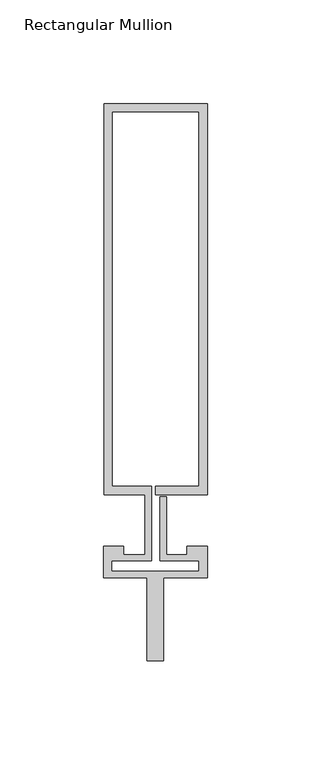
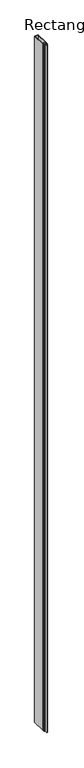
"""IFC4 building model written with IfcOpenShell, lengths in millimetres: member geometry, Rectangular Mullion : Reynaers_CW-50_Mullion-Transom_Vertical_188.5mm_Facecap-06B."""

from ifc_helpers import new_model, si_unit, frame, origin, place, context, project, spatial, polyline, outline, extrude, source, transform, mapped, element, save


def rectangular_mullion_8f96b9b0(model_context):
    return source(origin(), model_context, "Body", "SweptSolid", [
        extrude(outline(polyline([(-24.8004059, 201.0), (25.1995941, 201.0), (25.1995941, 12.5), (0.0, 12.5), (0.0, 16.5), (21.1995941, 16.5), (21.1995941, 197.0), (-20.8004059, 197.0), (-20.8004059, 16.5), (-1.9004059, 16.5), (-1.9004059, -19.5), (-20.994845, -19.5), (-20.994845, -24.4191338), (21.1995941, -24.4191338), (21.1995941, -19.5), (2.2995941, -19.5), (2.2995941, 11.5), (5.2995941, 11.5), (5.2995941, -16.5), (15.2996495, -16.5), (15.2996495, -12.5), (25.1995941, -12.5), (25.1995941, -27.5), (4.004855, -27.5), (4.004855, -67.5), (-3.995145, -67.5), (-3.995145, -27.5), (-24.994845, -27.5), (-24.994845, -12.5), (-15.2996495, -12.5), (-15.2996495, -16.5), (-4.9004059, -16.5), (-4.9004059, 12.5), (-24.8004059, 12.5), (-24.8004059, 201.0)])), frame((0.0, 0.0, -10400.0), z_axis=(0.0, 0.0, 1.0), x_axis=(1.0, 0.0, 0.0)), (0.0, 0.0, 1.0), 10400.0),
    ])


if __name__ == "__main__":
    model = new_model("IFC4")
    model_context = context("Model", 3, world=origin())
    ifc_project = project(units=[si_unit("LENGTHUNIT", "METRE", prefix="MILLI")], contexts=[model_context])
    site = spatial("IfcSite", under=ifc_project)
    building = spatial("IfcBuilding", under=site)
    placement = place(None, origin())
    rectangular_mullion_shape = rectangular_mullion_8f96b9b0(model_context)
    element("IfcMember", 1, ObjectType="Rectangular Mullion : Reynaers_CW-50_Mullion-Transom_Vertical_188.5mm_Facecap-06B", at=placement, inside=building, context=model_context, shape_type="MappedRepresentation", body=[
        mapped(rectangular_mullion_shape, transform((0.0, 0.0, 0.0), x_axis=(1.0, 0.0, 0.0), y_axis=(0.0, 1.0, 0.0), z_axis=(0.0, 0.0, 1.0))),
    ])
    save(model, "model.ifc")
